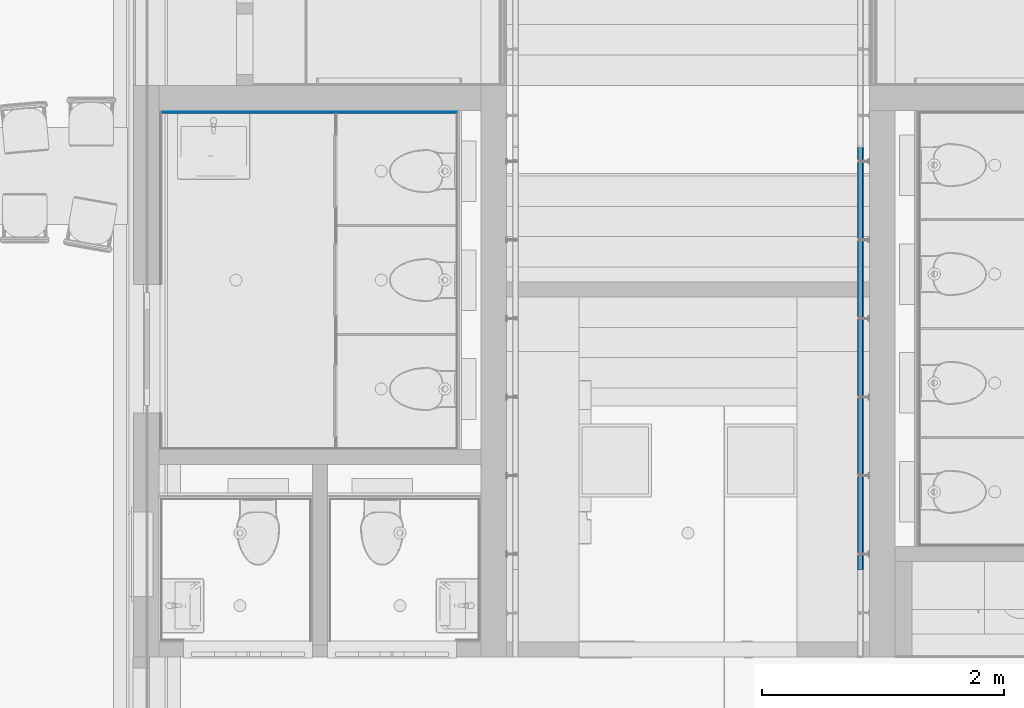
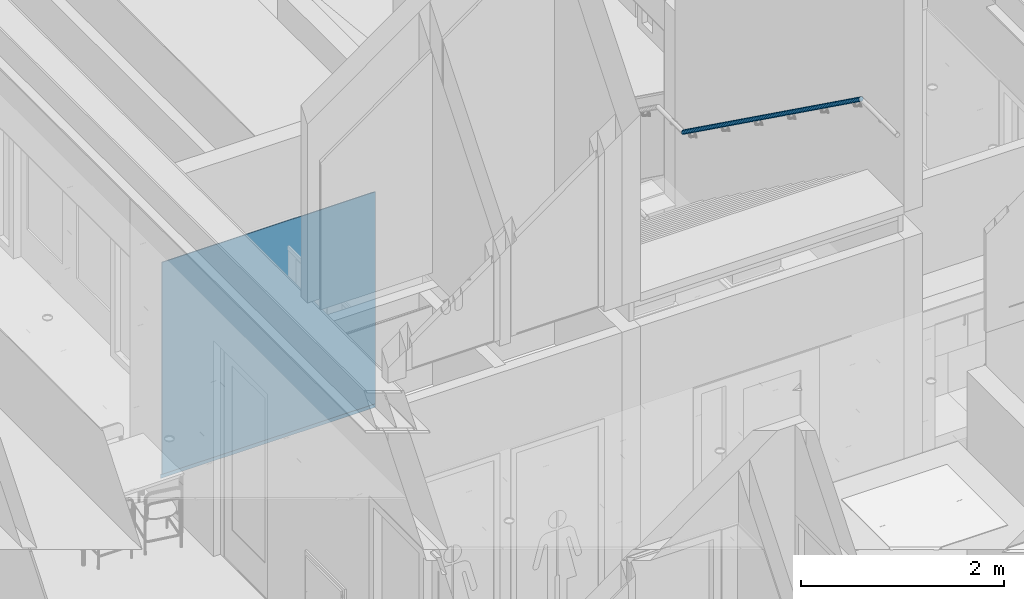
# One storey, part 120 of 347: 3 building element parts, 3 elements without a shape of their own.
"""IFC2X3 building model written with IfcOpenShell, lengths in millimetres."""

from ifc_helpers import new_model, entity, si_unit, converted_unit, derived_unit, money_unit, direction, frame, origin_with_axes, place, context, subcontext, project, spatial, faceted_brep, material, type_object, element, aggregate, save


model = new_model("IFC2X3")

# Units and contexts
model_context = context("Model", 3, precision=0.01, world=origin_with_axes(), true_north=direction((0.0, 1.0)))
plan_context = context("Plan", 3, precision=0.01, world=origin_with_axes(), true_north=direction((0.0, 1.0)))
body_context = subcontext(model_context, "Body", "Model", "MODEL_VIEW")
ifc_project = project(units=[si_unit("LENGTHUNIT", "METRE", prefix="MILLI"), si_unit("AREAUNIT", "SQUARE_METRE"), si_unit("VOLUMEUNIT", "CUBIC_METRE"), converted_unit("PLANEANGLEUNIT", "DEGREE", entity("IfcPlaneAngleMeasure", 0.0174532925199), si_unit("PLANEANGLEUNIT", "RADIAN"), dimensions=[0, 0, 0, 0, 0, 0, 0]), money_unit("EUR"), converted_unit("TIMEUNIT", "Year", entity("IfcTimeMeasure", 31556926.0), si_unit("TIMEUNIT", "SECOND"), dimensions=[0, 0, 1, 0, 0, 0, 0]), si_unit("MASSUNIT", "GRAM", prefix="KILO"), si_unit("THERMODYNAMICTEMPERATUREUNIT", "DEGREE_CELSIUS"), si_unit("LUMINOUSINTENSITYUNIT", "LUMEN"), si_unit("ENERGYUNIT", "JOULE", prefix="MEGA"), derived_unit("THERMALCONDUCTANCEUNIT", [(si_unit("POWERUNIT", "WATT"), 1), (si_unit("LENGTHUNIT", "METRE"), -1), (si_unit("THERMODYNAMICTEMPERATUREUNIT", "KELVIN"), -1)]), derived_unit("SPECIFICHEATCAPACITYUNIT", [(si_unit("ENERGYUNIT", "JOULE"), 1), (si_unit("MASSUNIT", "GRAM", prefix="KILO"), -1), (si_unit("THERMODYNAMICTEMPERATUREUNIT", "KELVIN"), -1)]), derived_unit("MASSDENSITYUNIT", [(si_unit("MASSUNIT", "GRAM", prefix="KILO"), 1), (si_unit("VOLUMEUNIT", "CUBIC_METRE"), -1)])], contexts=[model_context, plan_context])

# Site, building, storey
site_placement = place(None, origin_with_axes())
site = spatial("IfcSite", under=ifc_project, at=site_placement, Name="Site", CompositionType="ELEMENT")
building_placement = place(site_placement, origin_with_axes())
building = spatial("IfcBuilding", under=site, at=building_placement, Name="Naam gebouw", CompositionType="ELEMENT")
storey_placement = place(building_placement, origin_with_axes())
storey = spatial("IfcBuildingStorey", under=building, at=storey_placement, Name="begane grond", CompositionType="ELEMENT", Elevation=0.0)

# Railing, member, building element part
railing_type = type_object("IfcRailingType", Name="Railing Type", PredefinedType="NOTDEFINED")
railing_placement = place(storey_placement, frame((41575.0, 36499.9999823, 72.0000018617), z_axis=(0.0, 0.0, 1.0), x_axis=(1.0, 0.0, 0.0)))
railing = element("IfcRailing", 1, at=railing_placement, inside=storey, type_object=railing_type, Name="_Reling-x", PredefinedType="NOTDEFINED")
member_type = type_object("IfcMemberType", Name="IfcMember", PredefinedType="USERDEFINED")
member_placement = place(railing_placement, frame((-75.0, -3949.99999297, 2212.0982987), z_axis=(0.0, 0.0, 1.0), x_axis=(1.0, 0.0, 0.0)))
member = element("IfcMember", 2, at=member_placement, type_object=member_type, Name="_Handregel-x")
aggregate(railing, [member])
ifc_material_1 = material(Name="Hout AFW")
building_element_part_1_placement = place(member_placement, origin_with_axes())
building_element_part_1 = element("IfcBuildingElementPart", 3, at=building_element_part_1_placement, material=ifc_material_1, Name="Hout AFW", context=body_context, shape_type="Brep", body=[
    faceted_brep([(25.0, 1741.93631759, 30.9016994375), (24.6201938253, 1743.33655949, 35.2429038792), (24.6201938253, -1756.66341911, 2555.24290388), (25.0, -1758.06366101, 2550.90169944), (24.6201938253, 1740.53607569, 26.5604949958), (23.4923155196, 1739.17837944, 22.3511958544), (21.6506350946, 1737.90448174, 18.4016994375), (19.151111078, 1736.75308933, 14.8320091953), (16.0696902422, 1735.75918669, 11.7505883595), (12.5, 1734.95297304, 9.25106434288), (8.55050358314, 1734.35894479, 7.40938391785), (4.34120444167, 1733.99515117, 6.28150561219), (0.0, 1733.87264588, 5.90169943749), (-4.34120444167, 1733.99515117, 6.28150561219), (-8.55050358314, 1734.35894479, 7.40938391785), (-12.5, 1734.95297304, 9.25106434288), (-16.0696902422, 1735.75918669, 11.7505883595), (-19.151111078, 1736.75308933, 14.8320091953), (-21.6506350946, 1737.90448174, 18.4016994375), (-23.4923155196, 1739.17837944, 22.3511958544), (-24.6201938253, 1740.53607569, 26.5604949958), (-25.0, 1741.93631759, 30.9016994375), (-24.6201938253, 1743.33655949, 35.2429038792), (-23.4923155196, 1744.69425574, 39.4522030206), (-21.6506350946, 1745.96815345, 43.4016994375), (-19.151111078, 1747.11954585, 46.9713896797), (-16.0696902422, 1748.11344849, 50.0528105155), (-12.5, 1748.91966214, 52.5523345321), (-8.55050358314, 1749.51369039, 54.3940149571), (-4.34120444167, 1749.87748401, 55.5218932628), (0.0, 1749.9999893, 55.9016994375), (4.34120444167, 1749.87748401, 55.5218932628), (8.55050358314, 1749.51369039, 54.3940149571), (12.5, 1748.91966214, 52.5523345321), (16.0696902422, 1748.11344849, 50.0528105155), (19.151111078, 1747.11954585, 46.9713896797), (21.6506350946, 1745.96815345, 43.4016994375), (23.4923155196, 1744.69425574, 39.4522030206), (23.4923155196, -1755.30572285, 2559.45220302), (21.6506350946, -1754.03182515, 2563.40169944), (19.151111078, -1752.88043275, 2566.97138968), (16.0696902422, -1751.8865301, 2570.05281052), (12.5, -1751.08031646, 2572.55233453), (8.55050358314, -1750.48628821, 2574.39401496), (4.34120444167, -1750.12249459, 2575.52189326), (0.0, -1749.9999893, 2575.90169944), (-4.34120444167, -1750.12249459, 2575.52189326), (-8.55050358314, -1750.48628821, 2574.39401496), (-12.5, -1751.08031646, 2572.55233453), (-16.0696902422, -1751.8865301, 2570.05281052), (-19.151111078, -1752.88043275, 2566.97138968), (-21.6506350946, -1754.03182515, 2563.40169944), (-23.4923155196, -1755.30572285, 2559.45220302), (-24.6201938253, -1756.66341911, 2555.24290388), (-25.0, -1758.06366101, 2550.90169944), (-24.6201938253, -1759.46390291, 2546.560495), (-23.4923155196, -1760.82159916, 2542.35119585), (-21.6506350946, -1762.09549686, 2538.40169944), (-19.151111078, -1763.24688927, 2534.8320092), (-16.0696902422, -1764.24079191, 2531.75058836), (-12.5, -1765.04700556, 2529.25106434), (-8.55050358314, -1765.64103381, 2527.40938392), (-4.34120444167, -1766.00482742, 2526.28150561), (0.0, -1766.12733272, 2525.90169944), (4.34120444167, -1766.00482742, 2526.28150561), (8.55050358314, -1765.64103381, 2527.40938392), (12.5, -1765.04700556, 2529.25106434), (16.0696902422, -1764.24079191, 2531.75058836), (19.151111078, -1763.24688927, 2534.8320092), (21.6506350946, -1762.09549686, 2538.40169944), (23.4923155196, -1760.82159916, 2542.35119585), (24.6201938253, -1759.46390291, 2546.560495)], [[[0, 1, 2, 3]], [[0, 4, 5, 6, 7, 8, 9, 10, 11, 12, 13, 14, 15, 16, 17, 18, 19, 20, 21, 22, 23, 24, 25, 26, 27, 28, 29, 30, 31, 32, 33, 34, 35, 36, 37, 1]], [[1, 37, 38, 2]], [[3, 2, 38, 39, 40, 41, 42, 43, 44, 45, 46, 47, 48, 49, 50, 51, 52, 53, 54, 55, 56, 57, 58, 59, 60, 61, 62, 63, 64, 65, 66, 67, 68, 69, 70, 71]], [[4, 0, 3, 71]], [[5, 4, 71, 70]], [[6, 5, 70, 69]], [[7, 6, 69, 68]], [[8, 7, 68, 67]], [[9, 8, 67, 66]], [[10, 9, 66, 65]], [[11, 10, 65, 64]], [[12, 11, 64, 63]], [[13, 12, 63, 62]], [[14, 13, 62, 61]], [[15, 14, 61, 60]], [[16, 15, 60, 59]], [[17, 16, 59, 58]], [[18, 17, 58, 57]], [[19, 18, 57, 56]], [[20, 19, 56, 55]], [[21, 20, 55, 54]], [[22, 21, 54, 53]], [[23, 22, 53, 52]], [[24, 23, 52, 51]], [[25, 24, 51, 50]], [[26, 25, 50, 49]], [[27, 26, 49, 48]], [[28, 27, 48, 47]], [[29, 28, 47, 46]], [[30, 29, 46, 45]], [[31, 30, 45, 44]], [[32, 31, 44, 43]], [[33, 32, 43, 42]], [[34, 33, 42, 41]], [[35, 34, 41, 40]], [[36, 35, 40, 39]], [[37, 36, 39, 38]]]),
])
aggregate(member, [building_element_part_1])

# Proxy, building element parts
building_element_proxy_type = type_object("IfcBuildingElementProxyType", Name="wandtegels 150x300 2600+ 10 x 2600", PredefinedType="NOTDEFINED")
proxy_placement = place(storey_placement, frame((38155.0, 34569.999999, 0.0), z_axis=(0.0, 0.0, 1.0), x_axis=(-1.0, -2.80369274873e-08, 0.0)))
proxy = element("IfcBuildingElementProxy", 4, at=proxy_placement, inside=storey, type_object=building_element_proxy_type, Name="42_47 wandtegels keramisch")
ifc_material_2 = material(Name="Tegels - Wand")
building_element_part_2_placement = place(proxy_placement, origin_with_axes())
building_element_part_2 = element("IfcBuildingElementPart", 5, at=building_element_part_2_placement, material=ifc_material_2, Name="Tegels - Wand", context=body_context, shape_type="Brep", body=[
    faceted_brep([(0.0, 0.0, 2600.0), (-2.80373058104e-07, -10.0, 2600.0), (2430.00009691, -10.0000681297, 2600.0), (2430.00009719, -6.8129736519e-05, 2600.0), (-2.80373058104e-07, -10.0, 50.0), (0.0, 0.0, 50.0), (-2.24297025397e-07, -8.00001490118, 50.0), (2430.00009691, -10.0000681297, 50.0), (2430.00009697, -8.00008303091, 50.0), (2430.00009719, -6.8129736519e-05, 50.0)], [[[0, 1, 2, 3]], [[4, 1, 0, 5, 6]], [[1, 4, 7, 2]], [[3, 2, 7, 8, 9]], [[5, 0, 3, 9]], [[6, 5, 9, 8]], [[4, 6, 8, 7]]]),
])
ifc_material_3 = material(Name="48 vloeivloer Bolidt")
building_element_part_3_placement = place(proxy_placement, origin_with_axes())
building_element_part_3 = element("IfcBuildingElementPart", 6, at=building_element_part_3_placement, material=ifc_material_3, Name="48 vloeivloer Bolidt", context=body_context, shape_type="Brep", body=[
    faceted_brep([(-8.00001512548, -8.00001467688, 50.0000059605), (-8.00001518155, -10.0000087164, 50.0000059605), (2438.00011181, -10.0000772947, 50.0000059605), (2438.00011187, -8.00008325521, 50.0000059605), (-8.00001518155, -10.0000087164, 0.0), (-8.00001512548, -8.00001467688, 0.0), (2438.00011181, -10.0000772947, 0.0), (2438.00011187, -8.00008325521, 0.0)], [[[0, 1, 2, 3]], [[4, 1, 0, 5]], [[1, 4, 6, 2]], [[3, 2, 6, 7]], [[5, 0, 3, 7]], [[4, 5, 7, 6]]]),
])
aggregate(proxy, [building_element_part_2, building_element_part_3])

save(model, "model.ifc")
